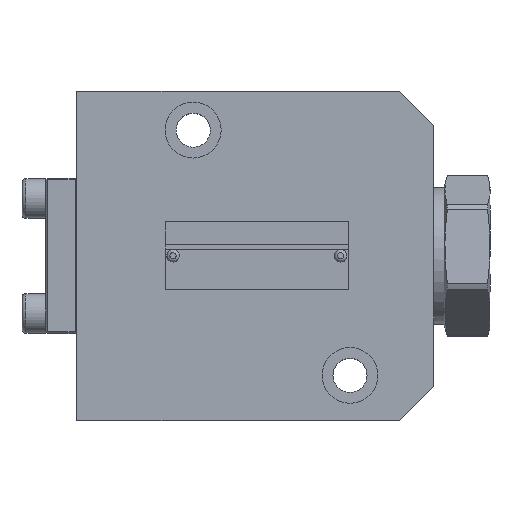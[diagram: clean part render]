
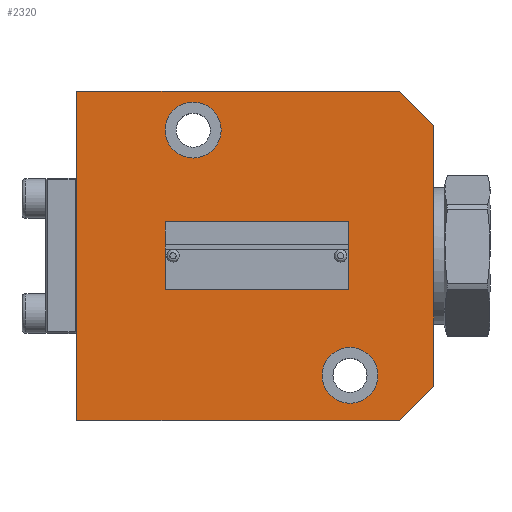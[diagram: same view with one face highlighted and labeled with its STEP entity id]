
A CAD part, top view. The second image highlights one B-rep face of the part: STEP entity #2320.
In plain terms, the highlighted planar face has unit normal (0, 0, 1).
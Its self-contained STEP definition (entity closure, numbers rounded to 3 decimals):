
#908=PLANE('',#6902);
#1135=FACE_BOUND('',#3039,.T.);
#1136=FACE_BOUND('',#3040,.T.);
#1137=FACE_BOUND('',#3041,.T.);
#1138=FACE_BOUND('',#3042,.T.);
#1139=FACE_BOUND('',#3043,.T.);
#1548=LINE('',#38143,#1910);
#1551=LINE('',#38157,#1913);
#1554=LINE('',#38163,#1916);
#1557=LINE('',#38171,#1919);
#1560=LINE('',#38177,#1922);
#1563=LINE('',#38190,#1925);
#1910=VECTOR('',#7860,1.);
#1913=VECTOR('',#7873,1.);
#1916=VECTOR('',#7878,1.);
#1919=VECTOR('',#7885,1.);
#1922=VECTOR('',#7890,1.);
#1925=VECTOR('',#7903,1.);
#2320=ADVANCED_FACE('',(#1135,#1136,#1137,#1138,#1139),#908,.T.);
#3039=EDGE_LOOP('',(#4272));
#3040=EDGE_LOOP('',(#4273));
#3041=EDGE_LOOP('',(#4274));
#3042=EDGE_LOOP('',(#4275));
#3043=EDGE_LOOP('',(#4276,#4277,#4278,#4279,#4280,#4281));
#3423=CIRCLE('',#6898,0.9);
#3424=CIRCLE('',#6899,0.9);
#3425=CIRCLE('',#6900,9.);
#3426=CIRCLE('',#6901,9.);
#4272=ORIENTED_EDGE('',*,*,#6006,.T.);
#4273=ORIENTED_EDGE('',*,*,#6007,.T.);
#4274=ORIENTED_EDGE('',*,*,#6008,.F.);
#4275=ORIENTED_EDGE('',*,*,#6009,.F.);
#4276=ORIENTED_EDGE('',*,*,#5981,.F.);
#4277=ORIENTED_EDGE('',*,*,#6005,.F.);
#4278=ORIENTED_EDGE('',*,*,#5998,.F.);
#4279=ORIENTED_EDGE('',*,*,#5995,.F.);
#4280=ORIENTED_EDGE('',*,*,#5991,.F.);
#4281=ORIENTED_EDGE('',*,*,#5988,.F.);
#5331=VERTEX_POINT('',#38142);
#5332=VERTEX_POINT('',#38144);
#5338=VERTEX_POINT('',#38158);
#5340=VERTEX_POINT('',#38164);
#5343=VERTEX_POINT('',#38172);
#5345=VERTEX_POINT('',#38178);
#5350=VERTEX_POINT('',#38193);
#5351=VERTEX_POINT('',#38195);
#5352=VERTEX_POINT('',#38197);
#5353=VERTEX_POINT('',#38199);
#5981=EDGE_CURVE('',#5331,#5332,#1548,.T.);
#5988=EDGE_CURVE('',#5332,#5338,#1551,.T.);
#5991=EDGE_CURVE('',#5338,#5340,#1554,.T.);
#5995=EDGE_CURVE('',#5340,#5343,#1557,.T.);
#5998=EDGE_CURVE('',#5343,#5345,#1560,.T.);
#6005=EDGE_CURVE('',#5345,#5331,#1563,.T.);
#6006=EDGE_CURVE('',#5350,#5350,#3423,.T.);
#6007=EDGE_CURVE('',#5351,#5351,#3424,.T.);
#6008=EDGE_CURVE('',#5352,#5352,#3425,.T.);
#6009=EDGE_CURVE('',#5353,#5353,#3426,.T.);
#6898=AXIS2_PLACEMENT_3D('',#38192,#7906,#7907);
#6899=AXIS2_PLACEMENT_3D('',#38194,#7908,#7909);
#6900=AXIS2_PLACEMENT_3D('',#38196,#7910,#7911);
#6901=AXIS2_PLACEMENT_3D('',#38198,#7912,#7913);
#6902=AXIS2_PLACEMENT_3D('',#38200,#7914,#7915);
#7860=DIRECTION('',(0.,1.,0.));
#7873=DIRECTION('',(1.,0.,0.));
#7878=DIRECTION('',(0.707,-0.707,0.));
#7885=DIRECTION('',(0.,-1.,0.));
#7890=DIRECTION('',(-0.707,-0.707,0.));
#7903=DIRECTION('',(-1.,0.,0.));
#7906=DIRECTION('',(0.,0.,-1.));
#7907=DIRECTION('',(-1.,0.,0.));
#7908=DIRECTION('',(0.,0.,-1.));
#7909=DIRECTION('',(-1.,0.,0.));
#7910=DIRECTION('',(0.,0.,1.));
#7911=DIRECTION('',(1.,0.,0.));
#7912=DIRECTION('',(0.,0.,1.));
#7913=DIRECTION('',(1.,0.,0.));
#7914=DIRECTION('',(0.,0.,1.));
#7915=DIRECTION('',(-1.,0.,0.));
#38142=CARTESIAN_POINT('',(279.731,125.834,22.04));
#38143=CARTESIAN_POINT('',(279.731,125.834,22.04));
#38144=CARTESIAN_POINT('',(279.731,231.834,22.04));
#38157=CARTESIAN_POINT('',(279.731,231.834,22.04));
#38158=CARTESIAN_POINT('',(383.731,231.834,22.04));
#38163=CARTESIAN_POINT('',(383.731,231.834,22.04));
#38164=CARTESIAN_POINT('',(394.731,220.834,22.04));
#38171=CARTESIAN_POINT('',(394.731,220.834,22.04));
#38172=CARTESIAN_POINT('',(394.731,136.834,22.04));
#38177=CARTESIAN_POINT('',(394.731,136.834,22.04));
#38178=CARTESIAN_POINT('',(383.731,125.834,22.04));
#38190=CARTESIAN_POINT('',(383.731,125.834,22.04));
#38192=CARTESIAN_POINT('',(364.731,178.834,22.04));
#38193=CARTESIAN_POINT('',(363.831,178.834,22.04));
#38194=CARTESIAN_POINT('',(310.731,178.834,22.04));
#38195=CARTESIAN_POINT('',(309.831,178.834,22.04));
#38196=CARTESIAN_POINT('',(317.231,219.334,22.04));
#38197=CARTESIAN_POINT('',(326.231,219.334,22.04));
#38198=CARTESIAN_POINT('',(367.731,140.334,22.04));
#38199=CARTESIAN_POINT('',(376.731,140.334,22.04));
#38200=CARTESIAN_POINT('',(367.731,140.334,22.04));
